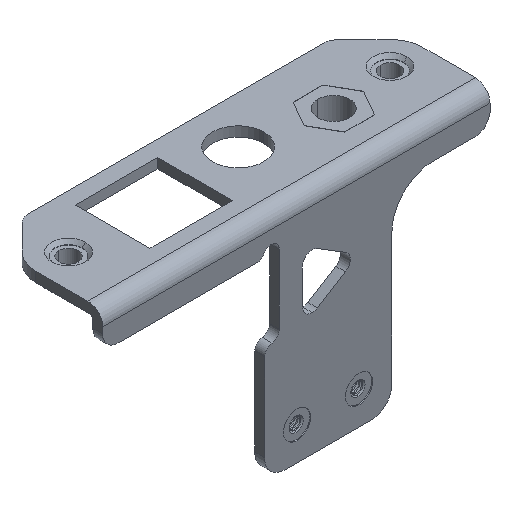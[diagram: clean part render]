
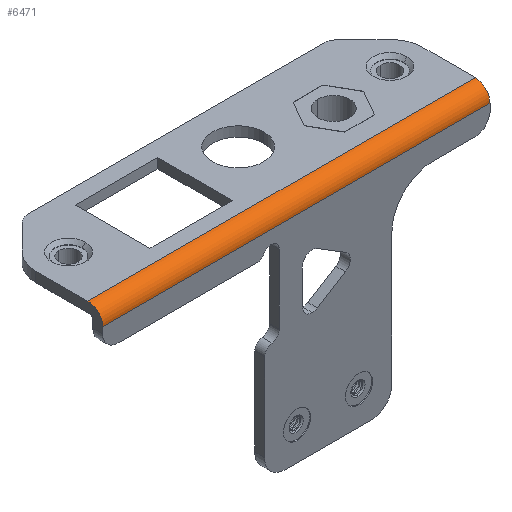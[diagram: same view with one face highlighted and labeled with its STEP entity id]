
A CAD part, isometric view. The second image highlights one B-rep face of the part: STEP entity #6471.
In plain terms, the highlighted cylindrical face has radius 2.286 mm (diameter 4.572 mm), a partial arc.
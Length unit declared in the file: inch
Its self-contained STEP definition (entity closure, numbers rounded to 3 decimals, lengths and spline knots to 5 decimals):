
#189 = DIRECTION ( 'NONE',  ( -1., 0., 0. ) ) ;
#191 = DIRECTION ( 'NONE',  ( 0., 0., -1. ) ) ;
#198 = CARTESIAN_POINT ( 'NONE',  ( 0.9825, 0.09, -0.09 ) ) ;
#199 = DIRECTION ( 'NONE',  ( 1., 0., 0. ) ) ;
#209 = DIRECTION ( 'NONE',  ( 0., 0., -1. ) ) ;
#215 = CARTESIAN_POINT ( 'NONE',  ( -1.367, 0.09, -0.09 ) ) ;
#223 = DIRECTION ( 'NONE',  ( 1., 0., 0. ) ) ;
#251 = EDGE_LOOP ( 'NONE', ( #1113, #1097, #905, #900 ) ) ;
#277 = AXIS2_PLACEMENT_3D ( 'NONE', #198, #189, #191 ) ;
#337 = CARTESIAN_POINT ( 'NONE',  ( -1.367, 0.09, 0. ) ) ;
#501 = DIRECTION ( 'NONE',  ( 1., 0., 0. ) ) ;
#513 = CARTESIAN_POINT ( 'NONE',  ( -1.367, 0., -0.09 ) ) ;
#719 = AXIS2_PLACEMENT_3D ( 'NONE', #215, #199, #209 ) ;
#900 = ORIENTED_EDGE ( 'NONE', *, *, #2705, .F. ) ;
#905 = ORIENTED_EDGE ( 'NONE', *, *, #2703, .T. ) ;
#1097 = ORIENTED_EDGE ( 'NONE', *, *, #2604, .T. ) ;
#1113 = ORIENTED_EDGE ( 'NONE', *, *, #2695, .T. ) ;
#1795 = VERTEX_POINT ( 'NONE', #3147 ) ;
#2134 = CYLINDRICAL_SURFACE ( 'NONE', #4338, 0.09 ) ;
#2242 = FACE_OUTER_BOUND ( 'NONE', #251, .T. ) ;
#2604 = EDGE_CURVE ( 'NONE', #4912, #3086, #4508, .T. ) ;
#2695 = EDGE_CURVE ( 'NONE', #5078, #4912, #3565, .T. ) ;
#2703 = EDGE_CURVE ( 'NONE', #3086, #1795, #3620, .T. ) ;
#2705 = EDGE_CURVE ( 'NONE', #5078, #1795, #3435, .T. ) ;
#3086 = VERTEX_POINT ( 'NONE', #5207 ) ;
#3147 = CARTESIAN_POINT ( 'NONE',  ( 0.9825, 0.09, 0. ) ) ;
#3238 = VECTOR ( 'NONE', #223, 39.37008 ) ;
#3435 = LINE ( 'NONE', #337, #3238 ) ;
#3565 = CIRCLE ( 'NONE', #719, 0.09 ) ;
#3620 = CIRCLE ( 'NONE', #277, 0.09 ) ;
#3698 = DIRECTION ( 'NONE',  ( 1., 0., 0. ) ) ;
#3706 = CARTESIAN_POINT ( 'NONE',  ( -4.4777, 0.09, -0.09 ) ) ;
#3716 = DIRECTION ( 'NONE',  ( 0., 0., -1. ) ) ;
#4236 = CARTESIAN_POINT ( 'NONE',  ( -1.367, 0.09, 0. ) ) ;
#4258 = CARTESIAN_POINT ( 'NONE',  ( -1.367, 0., -0.09 ) ) ;
#4338 = AXIS2_PLACEMENT_3D ( 'NONE', #3706, #3698, #3716 ) ;
#4508 = LINE ( 'NONE', #513, #4570 ) ;
#4570 = VECTOR ( 'NONE', #501, 39.37008 ) ;
#4912 = VERTEX_POINT ( 'NONE', #4258 ) ;
#5078 = VERTEX_POINT ( 'NONE', #4236 ) ;
#5207 = CARTESIAN_POINT ( 'NONE',  ( 0.9825, 0., -0.09 ) ) ;
#6471 = ADVANCED_FACE ( 'NONE', ( #2242 ), #2134, .T. ) ;
